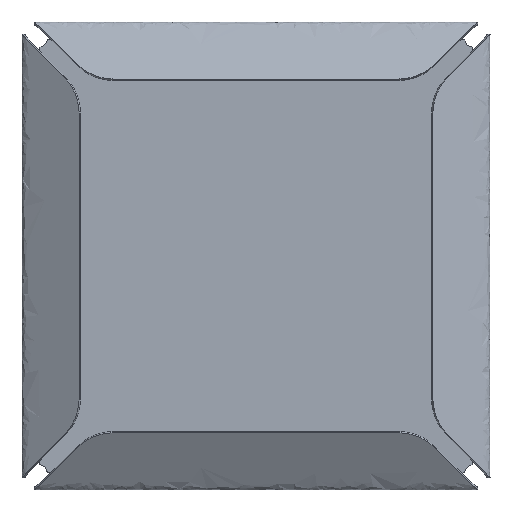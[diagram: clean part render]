
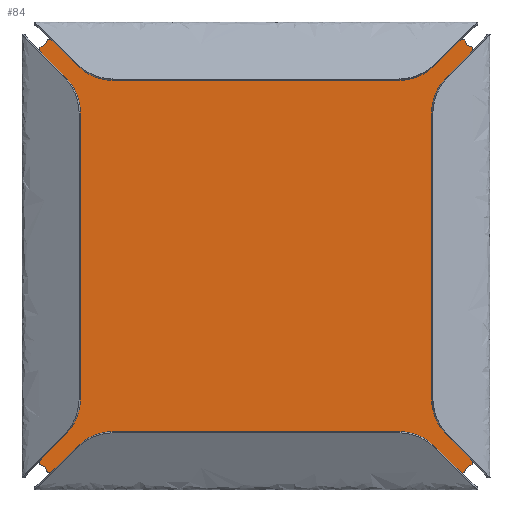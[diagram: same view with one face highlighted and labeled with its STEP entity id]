
A CAD part, top view. The second image highlights one B-rep face of the part: STEP entity #84.
In plain terms, the highlighted planar face has unit normal (0, 0, 1).
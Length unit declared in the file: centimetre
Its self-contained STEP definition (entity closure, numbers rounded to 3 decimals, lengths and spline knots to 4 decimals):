
#84=ADVANCED_FACE($,(#172),#1195,.T.);
#172=FACE_OUTER_BOUND($,#260,.T.);
#260=EDGE_LOOP($,(#360,#361));
#360=ORIENTED_EDGE($,*,*,#803,.F.);
#361=ORIENTED_EDGE($,*,*,#800,.F.);
#800=EDGE_CURVE($,#1021,#1023,#1379,.T.);
#803=EDGE_CURVE($,#1023,#1021,#1381,.T.);
#1021=VERTEX_POINT($,#1695);
#1023=VERTEX_POINT($,#1697);
#1195=PLANE($,#1519);
#1379=(
BOUNDED_CURVE()
B_SPLINE_CURVE(2,(#1571,#1572,#1573,#1574,#1575,#1576,#1577,#1578,#1579,
#1580,#1581,#1582,#1583,#1584,#1585,#1586,#1587),.UNSPECIFIED.,.F.,.F.)
B_SPLINE_CURVE_WITH_KNOTS((3,2,2,2,2,2,2,2,3),(200.8639,201.158,
203.6248,203.919,299.939,300.2331,302.7,
302.9941,399.0141),.UNSPECIFIED.)
CURVE()
GEOMETRIC_REPRESENTATION_ITEM()
RATIONAL_B_SPLINE_CURVE((1.,0.742,1.,0.774,1.,0.742,
1.,1.,1.,0.742,1.,0.774,1.,0.742,1.,1.,
1.))
REPRESENTATION_ITEM($)
);
#1381=(
BOUNDED_CURVE()
B_SPLINE_CURVE(2,(#1607,#1608,#1609,#1610,#1611,#1612,#1613,#1614,#1615,
#1616,#1617,#1618,#1619,#1620,#1621,#1622,#1623),.UNSPECIFIED.,.F.,.F.)
B_SPLINE_CURVE_WITH_KNOTS((3,2,2,2,2,2,2,2,3),(399.0141,399.3083,
401.7751,402.0692,498.0893,498.3834,500.8502,
501.1444,597.1644),.UNSPECIFIED.)
CURVE()
GEOMETRIC_REPRESENTATION_ITEM()
RATIONAL_B_SPLINE_CURVE((1.,0.742,1.,0.774,1.,0.742,
1.,1.,1.,0.742,1.,0.774,1.,0.742,1.,
1.,1.))
REPRESENTATION_ITEM($)
);
#1519=AXIS2_PLACEMENT_3D($,#1659,#1536,$);
#1536=DIRECTION($,(0.,0.,1.));
#1571=CARTESIAN_POINT($,(0.,98.01,1.1));
#1572=CARTESIAN_POINT($,(0.,98.1909,1.1));
#1573=CARTESIAN_POINT($,(0.18,98.209,1.1));
#1574=CARTESIAN_POINT($,(1.6439,98.3561,1.1));
#1575=CARTESIAN_POINT($,(1.791,99.82,1.1));
#1576=CARTESIAN_POINT($,(1.8091,100.,1.1));
#1577=CARTESIAN_POINT($,(1.99,100.,1.1));
#1578=CARTESIAN_POINT($,(50.,100.,1.1));
#1579=CARTESIAN_POINT($,(98.01,100.,1.1));
#1580=CARTESIAN_POINT($,(98.1909,100.,1.1));
#1581=CARTESIAN_POINT($,(98.209,99.82,1.1));
#1582=CARTESIAN_POINT($,(98.3561,98.3561,1.1));
#1583=CARTESIAN_POINT($,(99.82,98.209,1.1));
#1584=CARTESIAN_POINT($,(100.,98.1909,1.1));
#1585=CARTESIAN_POINT($,(100.,98.01,1.1));
#1586=CARTESIAN_POINT($,(100.,50.,1.1));
#1587=CARTESIAN_POINT($,(100.,1.99,1.1));
#1607=CARTESIAN_POINT($,(100.,1.99,1.1));
#1608=CARTESIAN_POINT($,(100.,1.8091,1.1));
#1609=CARTESIAN_POINT($,(99.82,1.791,1.1));
#1610=CARTESIAN_POINT($,(98.3561,1.6439,1.1));
#1611=CARTESIAN_POINT($,(98.209,0.18,1.1));
#1612=CARTESIAN_POINT($,(98.1909,0.,1.1));
#1613=CARTESIAN_POINT($,(98.01,0.,1.1));
#1614=CARTESIAN_POINT($,(50.,0.,1.1));
#1615=CARTESIAN_POINT($,(1.99,0.,1.1));
#1616=CARTESIAN_POINT($,(1.8091,0.,1.1));
#1617=CARTESIAN_POINT($,(1.791,0.18,1.1));
#1618=CARTESIAN_POINT($,(1.6439,1.6439,1.1));
#1619=CARTESIAN_POINT($,(0.18,1.791,1.1));
#1620=CARTESIAN_POINT($,(0.,1.8091,1.1));
#1621=CARTESIAN_POINT($,(0.,1.99,1.1));
#1622=CARTESIAN_POINT($,(0.,50.,1.1));
#1623=CARTESIAN_POINT($,(0.,98.01,1.1));
#1659=CARTESIAN_POINT($,(0.,100.,1.1));
#1695=CARTESIAN_POINT($,(0.,98.01,1.1));
#1697=CARTESIAN_POINT($,(100.,1.99,1.1));
